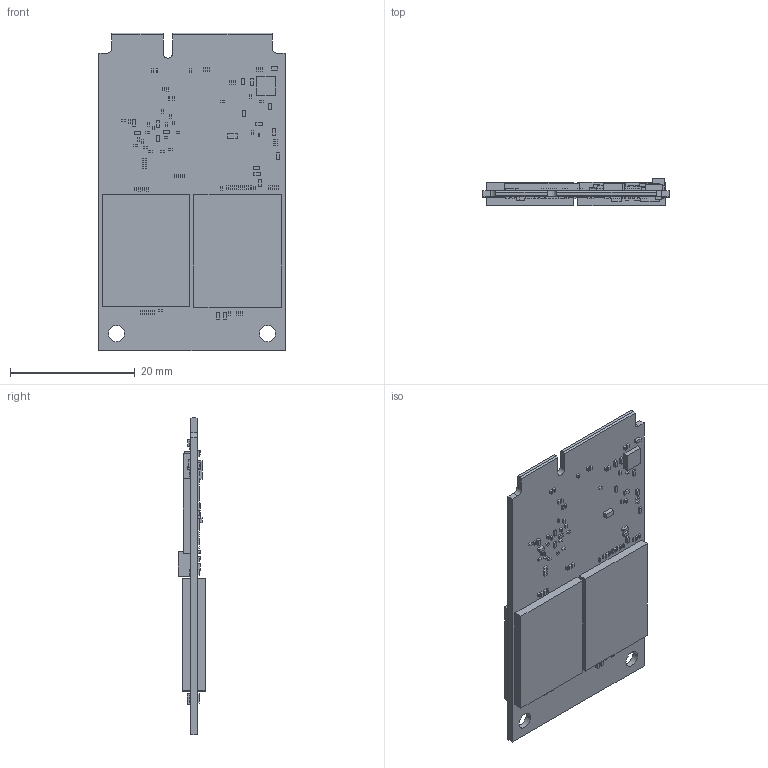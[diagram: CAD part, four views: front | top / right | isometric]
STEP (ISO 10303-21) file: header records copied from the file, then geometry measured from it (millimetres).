
FILE_DESCRIPTION((''),'2;1');
FILE_NAME('PCBA_MINI-PCIE_V1_ASM','2018-05-09T',('otto_lian'),(''),'PRO/ENGINEER BY PARAMETRIC TECHNOLOGY CORPORATION, 2011180','PRO/ENGINEER BY PARAMETRIC TECHNOLOGY CORPORATION, 2011180','');
FILE_SCHEMA(('CONFIG_CONTROL_DESIGN'));
Length unit declared in the file: millimetre
Products named in the file (25): PCB_MINI-PCIE_V1; BGA324P_12X12_0P65; R0805; F1210; BGA56P_3P59X3P19_0P4; XTAL4P_1612; DFN10P_3X3_0P5_EP; SOT_563_6P_1P6X1P2_0P5; TSOP8P_3X4P4_0P65; MINI_JUMPER2P_SMD; D0603; SOD_882; R0402; B0603; C0402; CA0402; C0603; LED0603; R0201; C0201; BGA152P_14X18_1P0; L_201610; L_252012; D018008GF004801E_3D_ASM; PCBA_MINI-PCIE_V1_ASM
Assembly tree (170 placements, depth 3):
  PCBA_MINI-PCIE_V1_ASM
    PCB_MINI-PCIE_V1
    D018008GF004801E_3D_ASM
      BGA324P_12X12_0P65
      R0805
      F1210
      BGA56P_3P59X3P19_0P4
      XTAL4P_1612
      DFN10P_3X3_0P5_EP
      SOT_563_6P_1P6X1P2_0P5
      TSOP8P_3X4P4_0P65
      MINI_JUMPER2P_SMD
      D0603
      SOD_882
      R0402  x4
      B0603  x2
      C0402  x7
      CA0402  x14
      C0603  x6
      LED0603  x2
      R0201  x50
      C0201  x64
      BGA152P_14X18_1P0  x4
      L_201610  x2
      L_252012  x2
Bounding box: 29.85 x 4.35 x 50.8 mm (x, y, z)
Volume: 3134 mm3; surface area: 6389.4 mm2
Topology: 169 solids, 169 shells, 1032 faces, 2352 edges, 1662 vertices
Faces by surface type: plane 1025, cylinder 7
Entity records: 8300 total; most frequent: DIRECTION 1713, CARTESIAN_POINT 1365, ORIENTED_EDGE 660, VECTOR 577, LINE 577, AXIS2_PLACEMENT_3D 568, EDGE_CURVE 330, TRIMMED_CURVE 270
